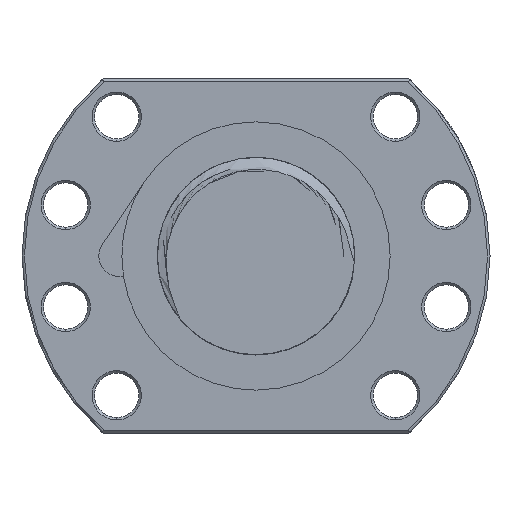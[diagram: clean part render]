
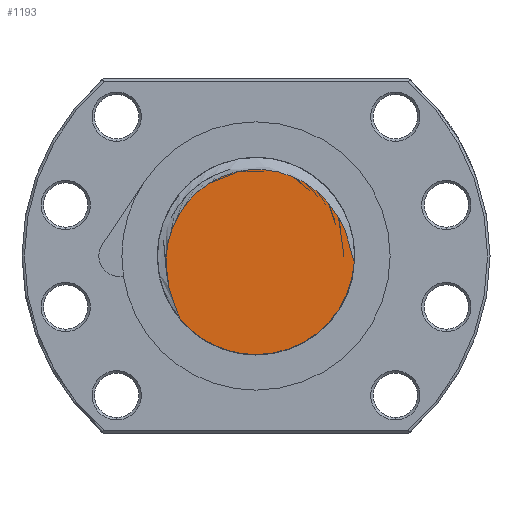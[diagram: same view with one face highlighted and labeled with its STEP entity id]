
A CAD part, left-side view. The second image highlights one B-rep face of the part: STEP entity #1193.
In plain terms, the highlighted planar face has unit normal (-1, 0, 0).
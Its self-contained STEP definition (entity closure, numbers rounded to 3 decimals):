
#345 = VERTEX_POINT ( 'NONE', #2563 ) ;
#809 = VERTEX_POINT ( 'NONE', #10409 ) ;
#865 = EDGE_CURVE ( 'NONE', #809, #345, #11168, .T. ) ;
#1193 = ADVANCED_FACE ( 'NONE', ( #12797 ), #12795, .F. ) ;
#1194 = EDGE_LOOP ( 'NONE', ( #1195, #1196, #1199 ) ) ;
#1195 = ORIENTED_EDGE ( 'NONE', *, *, #1251, .F. ) ;
#1196 = ORIENTED_EDGE ( 'NONE', *, *, #1197, .T. ) ;
#1197 = EDGE_CURVE ( 'NONE', #1252, #345, #12920, .T. ) ;
#1199 = ORIENTED_EDGE ( 'NONE', *, *, #865, .F. ) ;
#1251 = EDGE_CURVE ( 'NONE', #1252, #809, #13072, .T. ) ;
#1252 = VERTEX_POINT ( 'NONE', #13068 ) ;
#2563 = CARTESIAN_POINT ( 'NONE',  ( -128., 15.359, -12.81 ) ) ;
#10409 = CARTESIAN_POINT ( 'NONE',  ( -128., 0., -20. ) ) ;
#11164 = DIRECTION ( 'NONE',  ( 0., 1., 0. ) ) ;
#11165 = DIRECTION ( 'NONE',  ( 1., 0., 0. ) ) ;
#11166 = CARTESIAN_POINT ( 'NONE',  ( -128., 0., 0. ) ) ;
#11167 = AXIS2_PLACEMENT_3D ( 'NONE', #11166, #11165, #11164 ) ;
#11168 = CIRCLE ( 'NONE', #11167, 20. ) ;
#12795 = PLANE ( 'NONE',  #12924 ) ;
#12797 = FACE_OUTER_BOUND ( 'NONE', #1194, .T. ) ;
#12848 = CARTESIAN_POINT ( 'NONE',  ( -128., 15.359, -12.81 ) ) ;
#12849 = CARTESIAN_POINT ( 'NONE',  ( -128., 15.489, -12.461 ) ) ;
#12850 = CARTESIAN_POINT ( 'NONE',  ( -128., 15.637, -12.118 ) ) ;
#12851 = CARTESIAN_POINT ( 'NONE',  ( -128., 15.93, -11.432 ) ) ;
#12852 = CARTESIAN_POINT ( 'NONE',  ( -128., 16.077, -11.09 ) ) ;
#12853 = CARTESIAN_POINT ( 'NONE',  ( -128., 16.507, -10.057 ) ) ;
#12854 = CARTESIAN_POINT ( 'NONE',  ( -128., 16.778, -9.36 ) ) ;
#12855 = CARTESIAN_POINT ( 'NONE',  ( -128., 17.499, -7.247 ) ) ;
#12856 = CARTESIAN_POINT ( 'NONE',  ( -128., 17.861, -5.812 ) ) ;
#12857 = CARTESIAN_POINT ( 'NONE',  ( -128., 18.174, -3.607 ) ) ;
#12858 = CARTESIAN_POINT ( 'NONE',  ( -128., 18.241, -2.86 ) ) ;
#12859 = CARTESIAN_POINT ( 'NONE',  ( -128., 18.29, -1.372 ) ) ;
#12860 = CARTESIAN_POINT ( 'NONE',  ( -128., 18.275, -0.632 ) ) ;
#12861 = CARTESIAN_POINT ( 'NONE',  ( -128., 18.163, 0.841 ) ) ;
#12862 = CARTESIAN_POINT ( 'NONE',  ( -128., 18.066, 1.575 ) ) ;
#12863 = CARTESIAN_POINT ( 'NONE',  ( -128., 17.79, 3.034 ) ) ;
#12864 = CARTESIAN_POINT ( 'NONE',  ( -128., 17.609, 3.764 ) ) ;
#12865 = CARTESIAN_POINT ( 'NONE',  ( -128., 16.946, 5.891 ) ) ;
#12866 = CARTESIAN_POINT ( 'NONE',  ( -128., 16.344, 7.239 ) ) ;
#12867 = CARTESIAN_POINT ( 'NONE',  ( -128., 15.391, 8.838 ) ) ;
#12868 = CARTESIAN_POINT ( 'NONE',  ( -128., 15.19, 9.154 ) ) ;
#12869 = CARTESIAN_POINT ( 'NONE',  ( -128., 14.771, 9.771 ) ) ;
#12870 = CARTESIAN_POINT ( 'NONE',  ( -128., 14.553, 10.072 ) ) ;
#12871 = CARTESIAN_POINT ( 'NONE',  ( -128., 13.876, 10.953 ) ) ;
#12872 = CARTESIAN_POINT ( 'NONE',  ( -128., 13.392, 11.511 ) ) ;
#12873 = CARTESIAN_POINT ( 'NONE',  ( -128., 12.359, 12.567 ) ) ;
#12874 = CARTESIAN_POINT ( 'NONE',  ( -128., 11.81, 13.064 ) ) ;
#12875 = CARTESIAN_POINT ( 'NONE',  ( -128., 10.934, 13.764 ) ) ;
#12876 = CARTESIAN_POINT ( 'NONE',  ( -128., 10.635, 13.989 ) ) ;
#12877 = CARTESIAN_POINT ( 'NONE',  ( -128., 10.027, 14.417 ) ) ;
#12878 = CARTESIAN_POINT ( 'NONE',  ( -128., 9.717, 14.621 ) ) ;
#12879 = CARTESIAN_POINT ( 'NONE',  ( -128., 8.773, 15.205 ) ) ;
#12880 = CARTESIAN_POINT ( 'NONE',  ( -128., 8.123, 15.555 ) ) ;
#12881 = CARTESIAN_POINT ( 'NONE',  ( -128., 6.781, 16.177 ) ) ;
#12882 = CARTESIAN_POINT ( 'NONE',  ( -128., 6.087, 16.45 ) ) ;
#12883 = CARTESIAN_POINT ( 'NONE',  ( -128., 3.953, 17.14 ) ) ;
#12884 = CARTESIAN_POINT ( 'NONE',  ( -128., 2.502, 17.415 ) ) ;
#12885 = CARTESIAN_POINT ( 'NONE',  ( -128., 0.656, 17.544 ) ) ;
#12886 = CARTESIAN_POINT ( 'NONE',  ( -128., 0.284, 17.559 ) ) ;
#12887 = CARTESIAN_POINT ( 'NONE',  ( -128., -0.461, 17.567 ) ) ;
#12888 = CARTESIAN_POINT ( 'NONE',  ( -128., -0.836, 17.559 ) ) ;
#12889 = CARTESIAN_POINT ( 'NONE',  ( -128., -1.952, 17.503 ) ) ;
#12890 = CARTESIAN_POINT ( 'NONE',  ( -128., -2.687, 17.421 ) ) ;
#12891 = CARTESIAN_POINT ( 'NONE',  ( -128., -4.14, 17.17 ) ) ;
#12892 = CARTESIAN_POINT ( 'NONE',  ( -128., -4.858, 17.001 ) ) ;
#12893 = CARTESIAN_POINT ( 'NONE',  ( -128., -5.923, 16.682 ) ) ;
#12894 = CARTESIAN_POINT ( 'NONE',  ( -128., -6.276, 16.564 ) ) ;
#12895 = CARTESIAN_POINT ( 'NONE',  ( -128., -6.978, 16.308 ) ) ;
#12896 = CARTESIAN_POINT ( 'NONE',  ( -128., -7.325, 16.169 ) ) ;
#12897 = CARTESIAN_POINT ( 'NONE',  ( -128., -9.029, 15.429 ) ) ;
#12898 = CARTESIAN_POINT ( 'NONE',  ( -128., -10.302, 14.689 ) ) ;
#12899 = CARTESIAN_POINT ( 'NONE',  ( -128., -11.783, 13.581 ) ) ;
#12900 = CARTESIAN_POINT ( 'NONE',  ( -128., -12.073, 13.35 ) ) ;
#12901 = CARTESIAN_POINT ( 'NONE',  ( -128., -12.643, 12.87 ) ) ;
#12902 = CARTESIAN_POINT ( 'NONE',  ( -128., -12.922, 12.619 ) ) ;
#12903 = CARTESIAN_POINT ( 'NONE',  ( -128., -13.732, 11.851 ) ) ;
#12904 = CARTESIAN_POINT ( 'NONE',  ( -128., -14.238, 11.314 ) ) ;
#12905 = CARTESIAN_POINT ( 'NONE',  ( -128., -15.661, 9.627 ) ) ;
#12906 = CARTESIAN_POINT ( 'NONE',  ( -128., -16.484, 8.407 ) ) ;
#12907 = CARTESIAN_POINT ( 'NONE',  ( -128., -17.355, 6.761 ) ) ;
#12908 = CARTESIAN_POINT ( 'NONE',  ( -128., -17.521, 6.426 ) ) ;
#12909 = CARTESIAN_POINT ( 'NONE',  ( -128., -17.835, 5.75 ) ) ;
#12910 = CARTESIAN_POINT ( 'NONE',  ( -128., -17.983, 5.41 ) ) ;
#12911 = CARTESIAN_POINT ( 'NONE',  ( -128., -18.402, 4.38 ) ) ;
#12912 = CARTESIAN_POINT ( 'NONE',  ( -128., -18.647, 3.682 ) ) ;
#12913 = CARTESIAN_POINT ( 'NONE',  ( -128., -19.081, 2.268 ) ) ;
#12914 = CARTESIAN_POINT ( 'NONE',  ( -128., -19.269, 1.552 ) ) ;
#12915 = CARTESIAN_POINT ( 'NONE',  ( -128., -19.526, 0.469 ) ) ;
#12916 = CARTESIAN_POINT ( 'NONE',  ( -128., -19.608, 0.107 ) ) ;
#12917 = CARTESIAN_POINT ( 'NONE',  ( -128., -19.774, -0.617 ) ) ;
#12918 = CARTESIAN_POINT ( 'NONE',  ( -128., -19.856, -0.979 ) ) ;
#12919 = CARTESIAN_POINT ( 'NONE',  ( -128., -19.955, -1.336 ) ) ;
#12920 = B_SPLINE_CURVE_WITH_KNOTS ( 'NONE', 3,
 ( #12919, #12918, #12917, #12916, #12915, #12914, #12913, #12912, #12911, #12910, #12909, #12908, #12907, #12906, #12905, #12904, #12903, #12902, #12901, #12900, #12899, #12898, #12897, #12896, #12895, #12894, #12893, #12892, #12891, #12890, #12889, #12888, #12887, #12886, #12885, #12884, #12883, #12882, #12881, #12880, #12879, #12878, #12877, #12876, #12875, #12874, #12873, #12872, #12871, #12870, #12869, #12868, #12867, #12866, #12865, #12864, #12863, #12862, #12861, #12860, #12859, #12858, #12857, #12856, #12855, #12854, #12853, #12852, #12851, #12850, #12849, #12848 ),
 .UNSPECIFIED., .F., .F.,
 ( 4, 2, 2, 2, 2, 2, 2, 2, 2, 2, 2, 2, 2, 2, 2, 2, 2, 2, 2, 2, 2, 2, 2, 2, 2, 2, 2, 2, 2, 2, 2, 2, 2, 2, 2, 4 ),
 ( 0.001, 0.002, 0.003, 0.005, 0.007, 0.009, 0.01, 0.014, 0.016, 0.017, 0.019, 0.023, 0.024, 0.025, 0.027, 0.03, 0.031, 0.032, 0.036, 0.039, 0.041, 0.042, 0.043, 0.045, 0.047, 0.049, 0.05, 0.054, 0.056, 0.059, 0.061, 0.063, 0.067, 0.07, 0.071, 0.072 ),
 .UNSPECIFIED. ) ;
#12921 = DIRECTION ( 'NONE',  ( 0., 0., -1. ) ) ;
#12922 = DIRECTION ( 'NONE',  ( 1., 0., 0. ) ) ;
#12923 = CARTESIAN_POINT ( 'NONE',  ( -128., 0., 0. ) ) ;
#12924 = AXIS2_PLACEMENT_3D ( 'NONE', #12923, #12922, #12921 ) ;
#13068 = CARTESIAN_POINT ( 'NONE',  ( -128., -19.955, -1.336 ) ) ;
#13069 = DIRECTION ( 'NONE',  ( 0., 1., 0. ) ) ;
#13070 = DIRECTION ( 'NONE',  ( 1., 0., 0. ) ) ;
#13071 = AXIS2_PLACEMENT_3D ( 'NONE', #13078, #13070, #13069 ) ;
#13072 = CIRCLE ( 'NONE', #13071, 20. ) ;
#13078 = CARTESIAN_POINT ( 'NONE',  ( -128., 0., 0. ) ) ;
